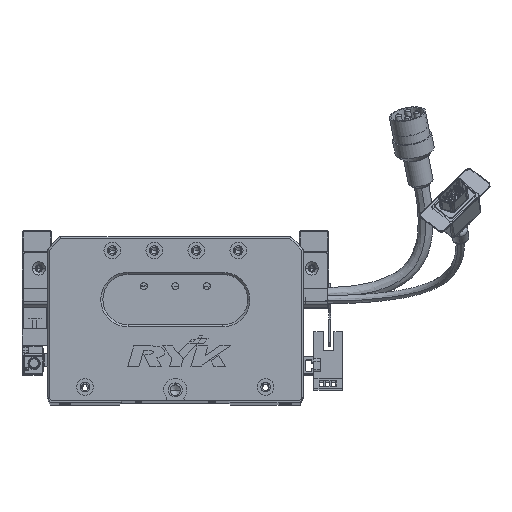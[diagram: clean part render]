
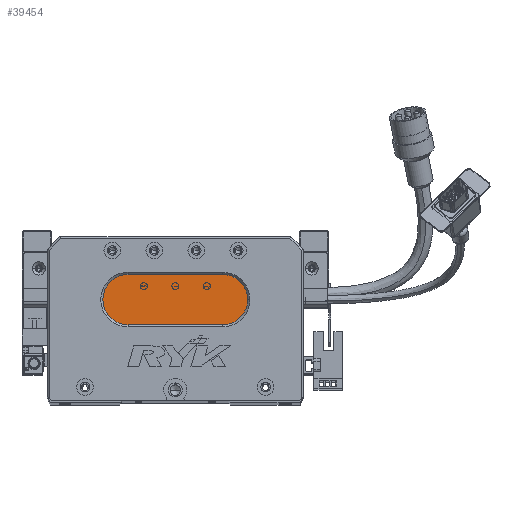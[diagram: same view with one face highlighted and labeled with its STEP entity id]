
A CAD part, top view. The second image highlights one B-rep face of the part: STEP entity #39454.
In plain terms, the highlighted planar face has unit normal (0, 0, 1) as drawn and (0, 0, -1) by its records, which use the part's own axes.
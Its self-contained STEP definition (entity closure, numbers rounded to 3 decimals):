
#29 = CARTESIAN_POINT ( 'NONE',  ( 83.5, 60., 13. ) ) ;
#3770 = DIRECTION ( 'NONE',  ( 0., 0., -1. ) ) ;
#4338 = CARTESIAN_POINT ( 'NONE',  ( 38.5, 48., 13. ) ) ;
#4789 = ORIENTED_EDGE ( 'NONE', *, *, #34576, .T. ) ;
#6743 = VECTOR ( 'NONE', #29549, 1000. ) ;
#7528 = VERTEX_POINT ( 'NONE', #22874 ) ;
#8405 = CARTESIAN_POINT ( 'NONE',  ( 38.5, 48., 13. ) ) ;
#9154 = CARTESIAN_POINT ( 'NONE',  ( 38.5, 36., 13. ) ) ;
#10029 = AXIS2_PLACEMENT_3D ( 'NONE', #56813, #3770, #69135 ) ;
#11266 = EDGE_CURVE ( 'NONE', #66327, #29473, #30459, .T. ) ;
#12266 = LINE ( 'NONE', #64754, #6743 ) ;
#14634 = FACE_OUTER_BOUND ( 'NONE', #40165, .T. ) ;
#14803 = LINE ( 'NONE', #29, #53518 ) ;
#14920 = VERTEX_POINT ( 'NONE', #37751 ) ;
#19637 = CARTESIAN_POINT ( 'NONE',  ( 83.5, 48., 13. ) ) ;
#20050 = DIRECTION ( 'NONE',  ( -1., 0., 0. ) ) ;
#21529 = CIRCLE ( 'NONE', #72469, 12. ) ;
#22874 = CARTESIAN_POINT ( 'NONE',  ( 38.5, 60., 13. ) ) ;
#26141 = CARTESIAN_POINT ( 'NONE',  ( 26.5, 48., 13. ) ) ;
#27192 = ORIENTED_EDGE ( 'NONE', *, *, #28897, .T. ) ;
#28897 = EDGE_CURVE ( 'NONE', #41737, #14920, #31360, .T. ) ;
#29354 = AXIS2_PLACEMENT_3D ( 'NONE', #4338, #74608, #75118 ) ;
#29473 = VERTEX_POINT ( 'NONE', #26141 ) ;
#29549 = DIRECTION ( 'NONE',  ( -1., 0., 0. ) ) ;
#30459 = CIRCLE ( 'NONE', #29354, 12. ) ;
#31360 = CIRCLE ( 'NONE', #10029, 12. ) ;
#34576 = EDGE_CURVE ( 'NONE', #14920, #66327, #12266, .T. ) ;
#37751 = CARTESIAN_POINT ( 'NONE',  ( 83.5, 36., 13. ) ) ;
#39454 = ADVANCED_FACE ( 'NONE', ( #14634 ), #42578, .T. ) ;
#40165 = EDGE_LOOP ( 'NONE', ( #27192, #4789, #42537, #59205, #68777 ) ) ;
#41737 = VERTEX_POINT ( 'NONE', #49352 ) ;
#42537 = ORIENTED_EDGE ( 'NONE', *, *, #11266, .T. ) ;
#42578 = PLANE ( 'NONE',  #57405 ) ;
#44235 = DIRECTION ( 'NONE',  ( 0., 0., -1. ) ) ;
#49242 = DIRECTION ( 'NONE',  ( -1., 0., 0. ) ) ;
#49352 = CARTESIAN_POINT ( 'NONE',  ( 83.5, 60., 13. ) ) ;
#52127 = DIRECTION ( 'NONE',  ( 1., 0., 0. ) ) ;
#53518 = VECTOR ( 'NONE', #52127, 1000. ) ;
#54372 = EDGE_CURVE ( 'NONE', #7528, #41737, #14803, .T. ) ;
#56813 = CARTESIAN_POINT ( 'NONE',  ( 83.5, 48., 13. ) ) ;
#57405 = AXIS2_PLACEMENT_3D ( 'NONE', #19637, #65911, #49242 ) ;
#59205 = ORIENTED_EDGE ( 'NONE', *, *, #71057, .T. ) ;
#64754 = CARTESIAN_POINT ( 'NONE',  ( 83.5, 36., 13. ) ) ;
#65911 = DIRECTION ( 'NONE',  ( 0., 0., -1. ) ) ;
#66327 = VERTEX_POINT ( 'NONE', #9154 ) ;
#68777 = ORIENTED_EDGE ( 'NONE', *, *, #54372, .T. ) ;
#69135 = DIRECTION ( 'NONE',  ( -1., 0., 0. ) ) ;
#71057 = EDGE_CURVE ( 'NONE', #29473, #7528, #21529, .T. ) ;
#72469 = AXIS2_PLACEMENT_3D ( 'NONE', #8405, #44235, #20050 ) ;
#74608 = DIRECTION ( 'NONE',  ( 0., 0., -1. ) ) ;
#75118 = DIRECTION ( 'NONE',  ( -1., 0., 0. ) ) ;
